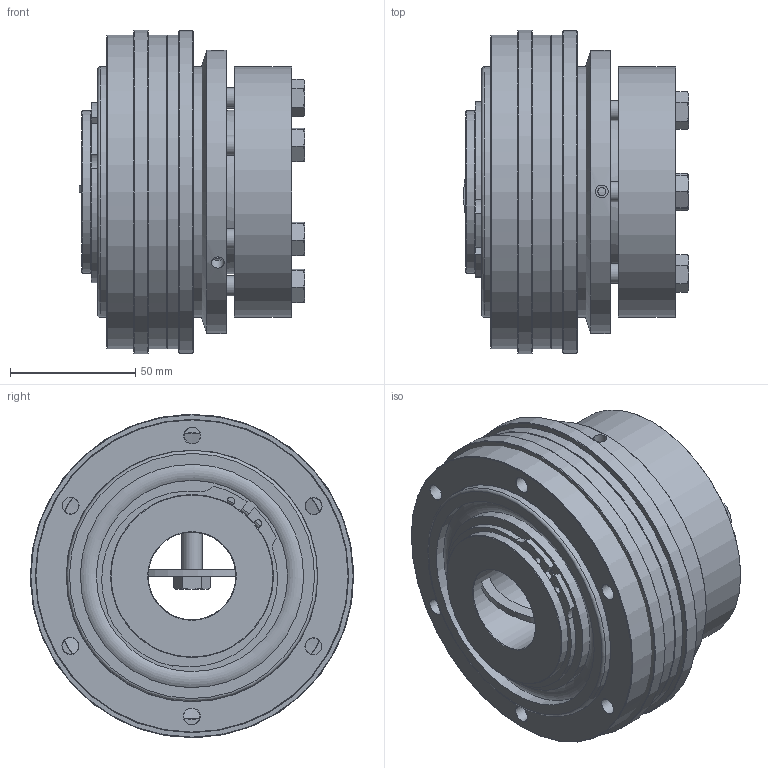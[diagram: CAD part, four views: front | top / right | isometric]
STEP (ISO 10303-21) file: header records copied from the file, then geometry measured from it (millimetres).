
FILE_DESCRIPTION( ( 'Unknown' ), '1' );
FILE_NAME( 'C:/Dokumente und Einstellungen/Sven/Desktop/hp kbk/KBK L-A-500.stp', 'Unknown', ( 'Unknown' ), ( 'Unknown' ), 'XStep 1.0', 'Unknown', ' ' );
FILE_SCHEMA( ( 'automotive_design' ) );
Length unit declared in the file: millimetre
Products named in the file (12): Assem1; Assem2; ball_bearing_-_6013_0_01; ball_bearing_-_6013_0_02; ball_bearing_-_6013_0_03; Stellring 500; Druckring 500; a_65; KBK L-A-500 Grundkörper; din_en_24017_m8x35; Flansch 500; Druckring L-A-500
Bounding box: 89.94 x 129 x 129 mm (x, y, z)
Volume: 1351093.9 mm3; surface area: 392118.9 mm2
Topology: 28 solids, 28 shells, 485 faces, 1022 edges, 652 vertices
Faces by surface type: plane 195, cylinder 142, cone 116, torus 32
Full cylindrical faces by diameter (mm): 3 x4, 3.242 x6, 5.1 x6, 5.2 x6, 6.647 x24, 8 x7, 8.5 x12, 11.63 x7, 35 x2, 62 x2, 65 x7, 65.111 x2, 76.3 x6, 86 x4, 89.1 x6, 91 x2, 100 x7, 104.5 x2, 113 x2, 114 x2, 125 x4, 129 x2
Entity records: 4873 total; most frequent: CARTESIAN_POINT 1112, DIRECTION 812, ORIENTED_EDGE 532, AXIS2_PLACEMENT_3D 376, EDGE_LOOP 326, EDGE_CURVE 266, FACE_OUTER_BOUND 240, VERTEX_POINT 218
